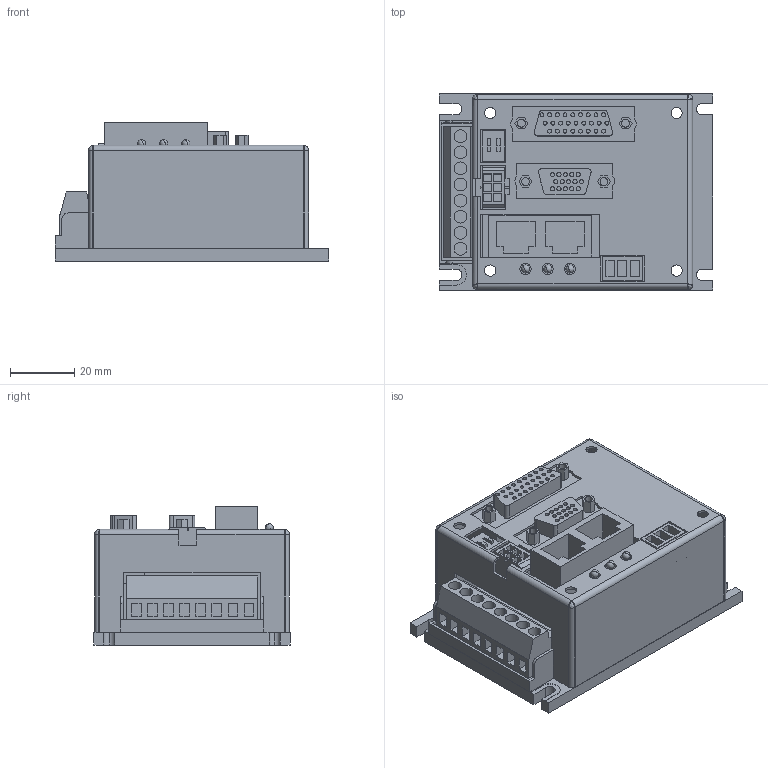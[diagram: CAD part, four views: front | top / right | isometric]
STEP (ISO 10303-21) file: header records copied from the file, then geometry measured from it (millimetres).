
FILE_DESCRIPTION (( 'STEP AP203' ), '1' );
FILE_NAME ('IXLS 1530髡夔尨砩蚾饜极.STEP', '2025-04-24T02:58:14', ( '' ), ( '' ), 'SwSTEP 2.0', 'SolidWorks 2018', '' );
FILE_SCHEMA (( 'CONFIG_CONTROL_DESIGN' ));
Length unit declared in the file: millimetre
Products named in the file (11): P2秶雄惕掅傷赽; IXLS1530 俋褲; CAN RS485 羲壽; DB26; RS485傷赽; DB15; CAN 傷赽; IXLS 1530髡夔尨砩蚾饜极; IXLS1530 菁釱; 萇埭諉芛 IXLS1530; 等黃腔腑
Assembly tree (12 placements, depth 2):
  IXLS 1530髡夔尨砩蚾饜极
    IXLS1530 菁釱
    IXLS1530 俋褲
    CAN RS485 羲壽
    CAN 傷赽
    DB15
    DB26
    P2秶雄惕掅傷赽
    RS485傷赽
    等黃腔腑  x3
    萇埭諉芛 IXLS1530
Bounding box: 85 x 61 x 43 mm (x, y, z)
Volume: 50101.3 mm3; surface area: 46690.9 mm2
Topology: 12 solids, 12 shells, 748 faces, 1804 edges, 1175 vertices
Faces by surface type: plane 556, cylinder 166, bspline 20, sphere 6
Entity records: 23242 total; most frequent: CARTESIAN_POINT 4436, ORIENTED_EDGE 3562, DIRECTION 3549, EDGE_CURVE 1781, LINE 1435, VECTOR 1435, VERTEX_POINT 1162, AXIS2_PLACEMENT_3D 1057
